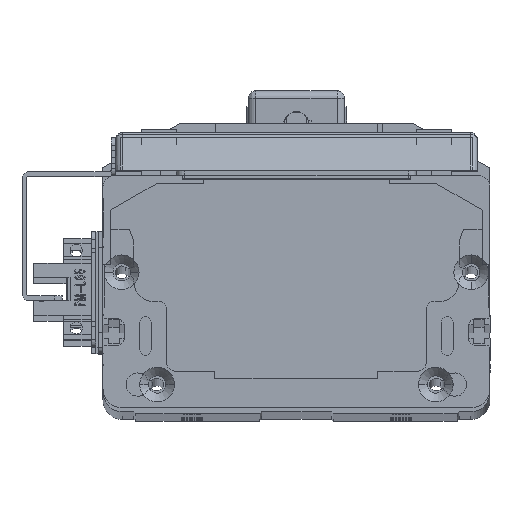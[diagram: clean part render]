
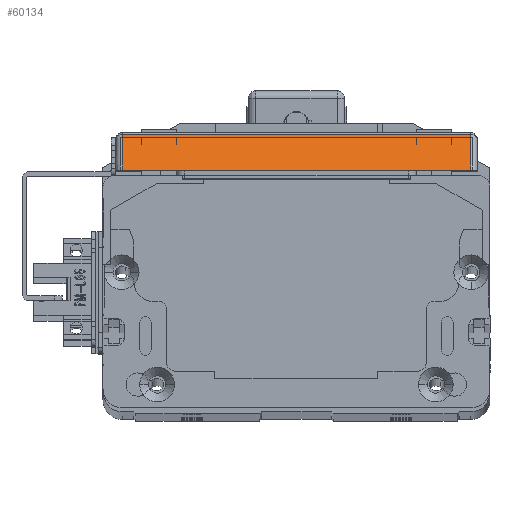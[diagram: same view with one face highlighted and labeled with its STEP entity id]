
A CAD part, top view. The second image highlights one B-rep face of the part: STEP entity #60134.
In plain terms, the highlighted planar face has unit normal (0, 0.707, 0.707) as drawn and (-0.707, 0, -0.707) by its records, which use the part's own axes.
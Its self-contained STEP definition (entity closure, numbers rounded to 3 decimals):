
#4204 = VECTOR ( 'NONE', #32569, 1000. ) ;
#7246 = CARTESIAN_POINT ( 'NONE',  ( -66.5, 91.7, 4.1 ) ) ;
#10403 = EDGE_LOOP ( 'NONE', ( #55652, #32816, #20443, #39502 ) ) ;
#13606 = EDGE_CURVE ( 'NONE', #21835, #27349, #33084, .T. ) ;
#18687 = VECTOR ( 'NONE', #58762, 1000. ) ;
#20443 = ORIENTED_EDGE ( 'NONE', *, *, #62305, .T. ) ;
#20867 = CARTESIAN_POINT ( 'NONE',  ( -68., 1.7, 5.6 ) ) ;
#21835 = VERTEX_POINT ( 'NONE', #47518 ) ;
#23091 = DIRECTION ( 'NONE',  ( -0.707, 0., -0.707 ) ) ;
#27349 = VERTEX_POINT ( 'NONE', #28942 ) ;
#27981 = LINE ( 'NONE', #32328, #4204 ) ;
#28942 = CARTESIAN_POINT ( 'NONE',  ( -66.5, 1.7, 4.1 ) ) ;
#30748 = FACE_OUTER_BOUND ( 'NONE', #10403, .T. ) ;
#31917 = DIRECTION ( 'NONE',  ( 0., -1., 0. ) ) ;
#32314 = VECTOR ( 'NONE', #49917, 1000. ) ;
#32328 = CARTESIAN_POINT ( 'NONE',  ( -68., 91.7, 5.6 ) ) ;
#32569 = DIRECTION ( 'NONE',  ( 0.707, 0., -0.707 ) ) ;
#32816 = ORIENTED_EDGE ( 'NONE', *, *, #66435, .T. ) ;
#33084 = LINE ( 'NONE', #20867, #18687 ) ;
#37447 = LINE ( 'NONE', #50619, #32314 ) ;
#37565 = VERTEX_POINT ( 'NONE', #44380 ) ;
#39502 = ORIENTED_EDGE ( 'NONE', *, *, #59934, .T. ) ;
#44380 = CARTESIAN_POINT ( 'NONE',  ( -57.298, 91.7, -5.102 ) ) ;
#46116 = AXIS2_PLACEMENT_3D ( 'NONE', #55334, #23091, #50359 ) ;
#46937 = LINE ( 'NONE', #69121, #54564 ) ;
#47518 = CARTESIAN_POINT ( 'NONE',  ( -57.298, 1.7, -5.102 ) ) ;
#49909 = PLANE ( 'NONE',  #46116 ) ;
#49917 = DIRECTION ( 'NONE',  ( 0., 1., 0. ) ) ;
#50359 = DIRECTION ( 'NONE',  ( -0.707, 0., 0.707 ) ) ;
#50393 = VERTEX_POINT ( 'NONE', #7246 ) ;
#50619 = CARTESIAN_POINT ( 'NONE',  ( -66.5, 93.4, 4.1 ) ) ;
#54564 = VECTOR ( 'NONE', #31917, 1000. ) ;
#55334 = CARTESIAN_POINT ( 'NONE',  ( -68., 93.4, 5.6 ) ) ;
#55652 = ORIENTED_EDGE ( 'NONE', *, *, #13606, .T. ) ;
#58762 = DIRECTION ( 'NONE',  ( -0.707, 0., 0.707 ) ) ;
#59934 = EDGE_CURVE ( 'NONE', #37565, #21835, #46937, .T. ) ;
#60134 = ADVANCED_FACE ( 'NONE', ( #30748 ), #49909, .T. ) ;
#62305 = EDGE_CURVE ( 'NONE', #50393, #37565, #27981, .T. ) ;
#66435 = EDGE_CURVE ( 'NONE', #27349, #50393, #37447, .T. ) ;
#69121 = CARTESIAN_POINT ( 'NONE',  ( -57.298, 93.4, -5.102 ) ) ;
